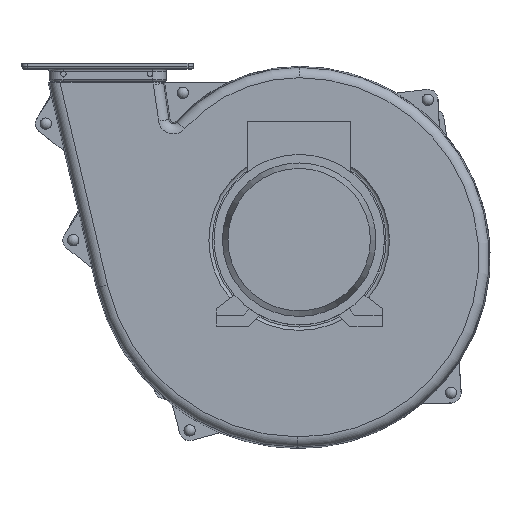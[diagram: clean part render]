
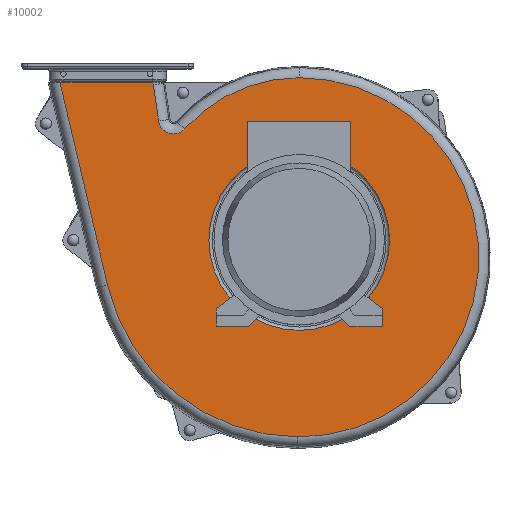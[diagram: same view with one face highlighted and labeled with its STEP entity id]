
A CAD part, top view. The second image highlights one B-rep face of the part: STEP entity #10002.
In plain terms, the highlighted planar face has unit normal (0, 0, 1).
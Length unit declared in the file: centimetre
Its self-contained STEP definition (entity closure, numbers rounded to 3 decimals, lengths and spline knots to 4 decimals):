
#1238=FACE_BOUND('',#2861,.T.);
#1537=CIRCLE('',#10694,8.37);
#1569=CIRCLE('',#10757,18.2333);
#1575=CIRCLE('',#10765,1.3867);
#1578=CIRCLE('',#10769,14.2533);
#1579=CIRCLE('',#10771,16.6383);
#2165=FACE_OUTER_BOUND('',#2860,.T.);
#2860=EDGE_LOOP('',(#7605,#7606,#7607,#7608,#7609,#7610,#7611,#7612));
#2861=EDGE_LOOP('',(#7613));
#3743=LINE('',#15294,#4288);
#3748=LINE('',#15328,#4293);
#3750=LINE('',#15349,#4295);
#3758=LINE('',#15365,#4303);
#4288=VECTOR('',#12363,0.185);
#4293=VECTOR('',#12390,3.4331);
#4295=VECTOR('',#12418,19.2938);
#4303=VECTOR('',#12442,8.6518);
#4824=VERTEX_POINT('',#15064);
#4867=VERTEX_POINT('',#15291);
#4868=VERTEX_POINT('',#15293);
#4872=VERTEX_POINT('',#15307);
#4873=VERTEX_POINT('',#15318);
#4875=VERTEX_POINT('',#15324);
#4877=VERTEX_POINT('',#15330);
#4879=VERTEX_POINT('',#15336);
#4881=VERTEX_POINT('',#15344);
#5795=EDGE_CURVE('',#4824,#4824,#1537,.T.);
#5869=EDGE_CURVE('',#4867,#4868,#3743,.T.);
#5877=EDGE_CURVE('',#4872,#4873,#1569,.T.);
#5882=EDGE_CURVE('',#4868,#4875,#3748,.T.);
#5885=EDGE_CURVE('',#4875,#4877,#1575,.T.);
#5888=EDGE_CURVE('',#4877,#4879,#1578,.T.);
#5889=EDGE_CURVE('',#4879,#4872,#1579,.T.);
#5893=EDGE_CURVE('',#4873,#4881,#3750,.T.);
#5901=EDGE_CURVE('',#4881,#4867,#3758,.T.);
#7605=ORIENTED_EDGE('',*,*,#5869,.F.);
#7606=ORIENTED_EDGE('',*,*,#5901,.F.);
#7607=ORIENTED_EDGE('',*,*,#5893,.F.);
#7608=ORIENTED_EDGE('',*,*,#5877,.F.);
#7609=ORIENTED_EDGE('',*,*,#5889,.F.);
#7610=ORIENTED_EDGE('',*,*,#5888,.F.);
#7611=ORIENTED_EDGE('',*,*,#5885,.F.);
#7612=ORIENTED_EDGE('',*,*,#5882,.F.);
#7613=ORIENTED_EDGE('',*,*,#5795,.T.);
#9669=PLANE('',#10787);
#10002=ADVANCED_FACE('',(#2165,#1238),#9669,.F.);
#10694=AXIS2_PLACEMENT_3D('',#15065,#12216,#12217);
#10757=AXIS2_PLACEMENT_3D('',#15319,#12379,#12380);
#10765=AXIS2_PLACEMENT_3D('',#15334,#12397,#12398);
#10769=AXIS2_PLACEMENT_3D('',#15339,#12405,#12406);
#10771=AXIS2_PLACEMENT_3D('',#15341,#12409,#12410);
#10787=AXIS2_PLACEMENT_3D('',#15373,#12454,#12455);
#12216=DIRECTION('center_axis',(0.,0.,
-1.));
#12217=DIRECTION('ref_axis',(0.,1.,0.));
#12363=DIRECTION('',(0.,-1.,0.));
#12379=DIRECTION('center_axis',(0.,0.,
-1.));
#12380=DIRECTION('ref_axis',(-0.624,-0.781,0.));
#12390=DIRECTION('',(0.143,-0.99,0.));
#12397=DIRECTION('center_axis',(0.,0.,
1.));
#12398=DIRECTION('ref_axis',(-0.289,-0.957,0.));
#12405=DIRECTION('center_axis',(0.,0.,
-1.));
#12406=DIRECTION('ref_axis',(-0.408,0.913,0.));
#12409=DIRECTION('center_axis',(0.,0.,
-1.));
#12410=DIRECTION('ref_axis',(1.,-0.004,0.));
#12418=DIRECTION('',(-0.229,0.973,0.));
#12442=DIRECTION('',(1.,0.,0.));
#12454=DIRECTION('center_axis',(0.,0.,
-1.));
#12455=DIRECTION('ref_axis',(0.,1.,0.));
#15064=CARTESIAN_POINT('',(0.,-8.37,-0.639));
#15065=CARTESIAN_POINT('Origin',(0.,0.,
-0.639));
#15291=CARTESIAN_POINT('',(-13.5124,14.61,-0.639));
#15293=CARTESIAN_POINT('',(-13.5124,14.425,-0.639));
#15294=CARTESIAN_POINT('',(-13.5124,7.4928,-0.639));
#15307=CARTESIAN_POINT('',(-0.1412,-18.2327,-0.639));
#15318=CARTESIAN_POINT('',(-17.7496,-4.172,-0.639));
#15319=CARTESIAN_POINT('Origin',(0.,0.,
-0.639));
#15324=CARTESIAN_POINT('',(-13.0222,11.0271,-0.639));
#15328=CARTESIAN_POINT('',(-12.4198,6.8518,-0.639));
#15330=CARTESIAN_POINT('',(-10.6168,10.3,-0.639));
#15334=CARTESIAN_POINT('Origin',(-11.6497,11.2252,-0.639));
#15336=CARTESIAN_POINT('',(-0.0019,15.0433,-0.639));
#15339=CARTESIAN_POINT('Origin',(0.,0.79,
-0.639));
#15341=CARTESIAN_POINT('Origin',(0.0008,-1.595,
-0.639));
#15344=CARTESIAN_POINT('',(-22.1642,14.61,-0.639));
#15349=CARTESIAN_POINT('',(-17.8828,-3.605,-0.639));
#15365=CARTESIAN_POINT('',(-23.0919,14.61,-0.639));
#15373=CARTESIAN_POINT('Origin',(-3.4933,0.3756,-0.639));
